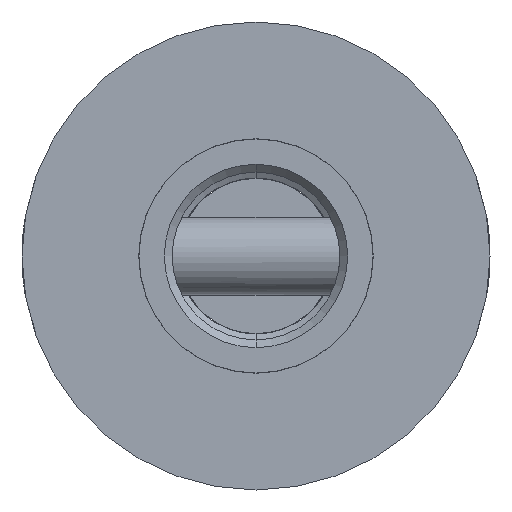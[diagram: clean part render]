
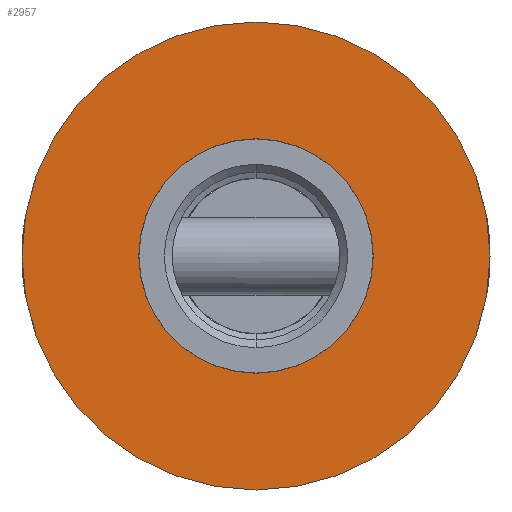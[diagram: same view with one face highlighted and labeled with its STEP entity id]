
A CAD part, front view. The second image highlights one B-rep face of the part: STEP entity #2957.
In plain terms, the highlighted planar face has unit normal (0, -1, 0).
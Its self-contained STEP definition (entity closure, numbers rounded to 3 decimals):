
#125 = AXIS2_PLACEMENT_3D ( 'NONE', #2426, #1288, #2432 ) ;
#179 = CIRCLE ( 'NONE', #125, 6. ) ;
#226 = EDGE_LOOP ( 'NONE', ( #234, #315 ) ) ;
#234 = ORIENTED_EDGE ( 'NONE', *, *, #1570, .F. ) ;
#304 = CIRCLE ( 'NONE', #857, 3.005 ) ;
#315 = ORIENTED_EDGE ( 'NONE', *, *, #1409, .F. ) ;
#321 = AXIS2_PLACEMENT_3D ( 'NONE', #1109, #1359, #1602 ) ;
#389 = DIRECTION ( 'NONE',  ( 0., 0., -1. ) ) ;
#434 = DIRECTION ( 'NONE',  ( 0., -1., 0. ) ) ;
#449 = CARTESIAN_POINT ( 'NONE',  ( 0., -300., 0. ) ) ;
#558 = ORIENTED_EDGE ( 'NONE', *, *, #3248, .T. ) ;
#780 = ORIENTED_EDGE ( 'NONE', *, *, #1374, .T. ) ;
#857 = AXIS2_PLACEMENT_3D ( 'NONE', #3103, #1551, #1575 ) ;
#1025 = FACE_OUTER_BOUND ( 'NONE', #2609, .T. ) ;
#1109 = CARTESIAN_POINT ( 'NONE',  ( 0., -300., 0. ) ) ;
#1288 = DIRECTION ( 'NONE',  ( 0., -1., 0. ) ) ;
#1359 = DIRECTION ( 'NONE',  ( 0., -1., 0. ) ) ;
#1374 = EDGE_CURVE ( 'NONE', #1889, #2541, #179, .T. ) ;
#1409 = EDGE_CURVE ( 'NONE', #3051, #3106, #2444, .T. ) ;
#1532 = AXIS2_PLACEMENT_3D ( 'NONE', #2991, #2922, #2913 ) ;
#1551 = DIRECTION ( 'NONE',  ( 0., -1., 0. ) ) ;
#1570 = EDGE_CURVE ( 'NONE', #3106, #3051, #304, .T. ) ;
#1575 = DIRECTION ( 'NONE',  ( 0., 0., -1. ) ) ;
#1602 = DIRECTION ( 'NONE',  ( 0., 0., -1. ) ) ;
#1708 = CARTESIAN_POINT ( 'NONE',  ( 0., -300., -3.005 ) ) ;
#1889 = VERTEX_POINT ( 'NONE', #3272 ) ;
#2229 = CARTESIAN_POINT ( 'NONE',  ( 0., -300., -6. ) ) ;
#2234 = CARTESIAN_POINT ( 'NONE',  ( 0., -300., 3.005 ) ) ;
#2300 = CIRCLE ( 'NONE', #2540, 6. ) ;
#2426 = CARTESIAN_POINT ( 'NONE',  ( 0., -300., 0. ) ) ;
#2432 = DIRECTION ( 'NONE',  ( 0., 0., -1. ) ) ;
#2444 = CIRCLE ( 'NONE', #321, 3.005 ) ;
#2540 = AXIS2_PLACEMENT_3D ( 'NONE', #449, #434, #389 ) ;
#2541 = VERTEX_POINT ( 'NONE', #2229 ) ;
#2609 = EDGE_LOOP ( 'NONE', ( #558, #780 ) ) ;
#2913 = DIRECTION ( 'NONE',  ( 0., 0., -1. ) ) ;
#2922 = DIRECTION ( 'NONE',  ( 0., -1., 0. ) ) ;
#2957 = ADVANCED_FACE ( 'NONE', ( #3084, #1025 ), #3068, .T. ) ;
#2991 = CARTESIAN_POINT ( 'NONE',  ( 0., -300., 0. ) ) ;
#3051 = VERTEX_POINT ( 'NONE', #2234 ) ;
#3068 = PLANE ( 'NONE',  #1532 ) ;
#3084 = FACE_BOUND ( 'NONE', #226, .T. ) ;
#3103 = CARTESIAN_POINT ( 'NONE',  ( 0., -300., 0. ) ) ;
#3106 = VERTEX_POINT ( 'NONE', #1708 ) ;
#3248 = EDGE_CURVE ( 'NONE', #2541, #1889, #2300, .T. ) ;
#3272 = CARTESIAN_POINT ( 'NONE',  ( 0., -300., 6. ) ) ;
